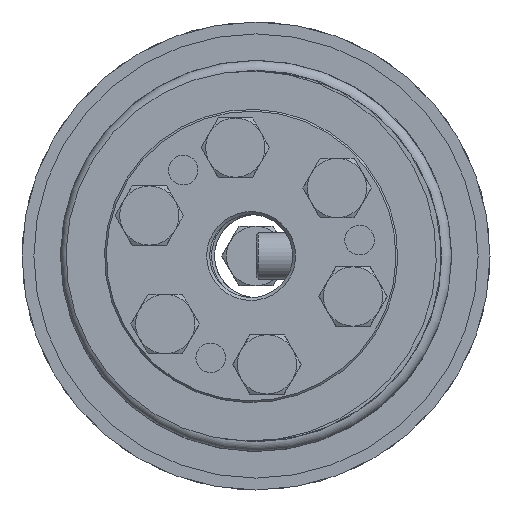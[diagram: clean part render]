
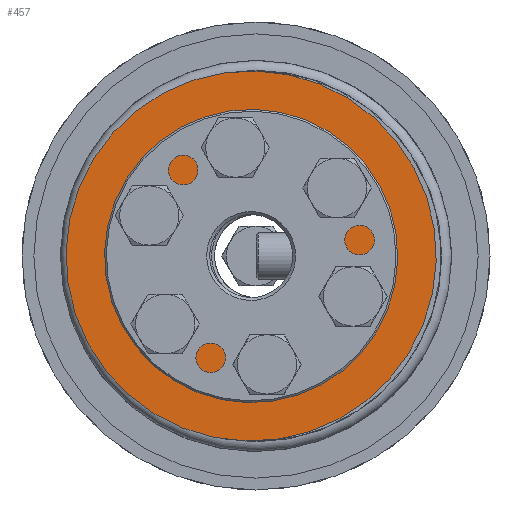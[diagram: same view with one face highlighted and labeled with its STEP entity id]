
A CAD part, left-side view. The second image highlights one B-rep face of the part: STEP entity #457.
In plain terms, the highlighted planar face has unit normal (-1, 0, 0) as drawn and (1, 0, 0) by its records, which use the part's own axes.
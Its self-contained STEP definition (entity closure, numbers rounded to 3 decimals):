
#457 = ADVANCED_FACE( 'NONE', ( #750, #751, #752, #753, #754, #755, #756, #757 ), #758, .F. );
#750 = FACE_OUTER_BOUND( '', #1318, .T. );
#751 = FACE_BOUND( '', #1319, .T. );
#752 = FACE_BOUND( '', #1320, .T. );
#753 = FACE_BOUND( '', #1321, .T. );
#754 = FACE_BOUND( '', #1322, .T. );
#755 = FACE_BOUND( '', #1323, .T. );
#756 = FACE_BOUND( '', #1324, .T. );
#757 = FACE_BOUND( '', #1325, .T. );
#758 = PLANE( '', #1326 );
#1318 = EDGE_LOOP( '', ( #1917 ) );
#1319 = EDGE_LOOP( '', ( #1918 ) );
#1320 = EDGE_LOOP( '', ( #1919 ) );
#1321 = EDGE_LOOP( '', ( #1920 ) );
#1322 = EDGE_LOOP( '', ( #1921 ) );
#1323 = EDGE_LOOP( '', ( #1922 ) );
#1324 = EDGE_LOOP( '', ( #1923 ) );
#1325 = EDGE_LOOP( '', ( #1924 ) );
#1326 = AXIS2_PLACEMENT_3D( '', #1925, #1926, #1927 );
#1917 = ORIENTED_EDGE( '', *, *, #2955, .F. );
#1918 = ORIENTED_EDGE( '', *, *, #2941, .F. );
#1919 = ORIENTED_EDGE( '', *, *, #2954, .T. );
#1920 = ORIENTED_EDGE( '', *, *, #2956, .F. );
#1921 = ORIENTED_EDGE( '', *, *, #2953, .F. );
#1922 = ORIENTED_EDGE( '', *, *, #2957, .F. );
#1923 = ORIENTED_EDGE( '', *, *, #2958, .F. );
#1924 = ORIENTED_EDGE( '', *, *, #2959, .F. );
#1925 = CARTESIAN_POINT( '', ( 16., 31.25, 0. ) );
#1926 = DIRECTION( '', ( -1., 0., 0. ) );
#1927 = DIRECTION( '', ( 0., 0., 1. ) );
#2941 = EDGE_CURVE( 'NONE', #3210, #3210, #3211, .T. );
#2953 = EDGE_CURVE( 'NONE', #3234, #3234, #3235, .T. );
#2954 = EDGE_CURVE( 'NONE', #3236, #3236, #3237, .T. );
#2955 = EDGE_CURVE( 'NONE', #3238, #3238, #3239, .T. );
#2956 = EDGE_CURVE( 'NONE', #3240, #3240, #3241, .T. );
#2957 = EDGE_CURVE( 'NONE', #3242, #3242, #3243, .T. );
#2958 = EDGE_CURVE( 'NONE', #3244, #3244, #3245, .T. );
#2959 = EDGE_CURVE( 'NONE', #3246, #3246, #3247, .T. );
#3210 = VERTEX_POINT( '', #3656 );
#3211 = CIRCLE( '', #3657, 3. );
#3234 = VERTEX_POINT( '', #3680 );
#3235 = CIRCLE( '', #3681, 3. );
#3236 = VERTEX_POINT( '', #3682 );
#3237 = CIRCLE( '', #3683, 15.1 );
#3238 = VERTEX_POINT( '', #3684 );
#3239 = CIRCLE( '', #3685, 31.25 );
#3240 = VERTEX_POINT( '', #3686 );
#3241 = CIRCLE( '', #3687, 3. );
#3242 = VERTEX_POINT( '', #3688 );
#3243 = CIRCLE( '', #3689, 3. );
#3244 = VERTEX_POINT( '', #3690 );
#3245 = CIRCLE( '', #3691, 3. );
#3246 = VERTEX_POINT( '', #3692 );
#3247 = CIRCLE( '', #3693, 3. );
#3656 = CARTESIAN_POINT( '', ( 16., -9.25, 13.021 ) );
#3657 = AXIS2_PLACEMENT_3D( '', #4660, #4661, #4662 );
#3680 = CARTESIAN_POINT( '', ( 16., 9.25, -19.021 ) );
#3681 = AXIS2_PLACEMENT_3D( '', #4696, #4697, #4698 );
#3682 = CARTESIAN_POINT( '', ( 16., 0., 15.1 ) );
#3683 = AXIS2_PLACEMENT_3D( '', #4699, #4700, #4701 );
#3684 = CARTESIAN_POINT( '', ( 16., 0., 31.25 ) );
#3685 = AXIS2_PLACEMENT_3D( '', #4702, #4703, #4704 );
#3686 = CARTESIAN_POINT( '', ( 16., 18.5, -3. ) );
#3687 = AXIS2_PLACEMENT_3D( '', #4705, #4706, #4707 );
#3688 = CARTESIAN_POINT( '', ( 16., -9.25, -19.021 ) );
#3689 = AXIS2_PLACEMENT_3D( '', #4708, #4709, #4710 );
#3690 = CARTESIAN_POINT( '', ( 16., -18.5, -3. ) );
#3691 = AXIS2_PLACEMENT_3D( '', #4711, #4712, #4713 );
#3692 = CARTESIAN_POINT( '', ( 16., 9.25, 13.021 ) );
#3693 = AXIS2_PLACEMENT_3D( '', #4714, #4715, #4716 );
#4660 = CARTESIAN_POINT( '', ( 16., -9.25, 16.021 ) );
#4661 = DIRECTION( '', ( 1., 0., 0. ) );
#4662 = DIRECTION( '', ( 0., 0., -1. ) );
#4696 = CARTESIAN_POINT( '', ( 16., 9.25, -16.021 ) );
#4697 = DIRECTION( '', ( 1., 0., 0. ) );
#4698 = DIRECTION( '', ( 0., 0., -1. ) );
#4699 = CARTESIAN_POINT( '', ( 16., 0., 0. ) );
#4700 = DIRECTION( '', ( -1., 0., 0. ) );
#4701 = DIRECTION( '', ( 0., 0., 1. ) );
#4702 = CARTESIAN_POINT( '', ( 16., 0., 0. ) );
#4703 = DIRECTION( '', ( -1., 0., 0. ) );
#4704 = DIRECTION( '', ( 0., 0., 1. ) );
#4705 = CARTESIAN_POINT( '', ( 16., 18.5, 0. ) );
#4706 = DIRECTION( '', ( 1., 0., 0. ) );
#4707 = DIRECTION( '', ( 0., 0., -1. ) );
#4708 = CARTESIAN_POINT( '', ( 16., -9.25, -16.021 ) );
#4709 = DIRECTION( '', ( 1., 0., 0. ) );
#4710 = DIRECTION( '', ( 0., 0., -1. ) );
#4711 = CARTESIAN_POINT( '', ( 16., -18.5, 0. ) );
#4712 = DIRECTION( '', ( 1., 0., 0. ) );
#4713 = DIRECTION( '', ( 0., 0., -1. ) );
#4714 = CARTESIAN_POINT( '', ( 16., 9.25, 16.021 ) );
#4715 = DIRECTION( '', ( 1., 0., 0. ) );
#4716 = DIRECTION( '', ( 0., 0., -1. ) );
